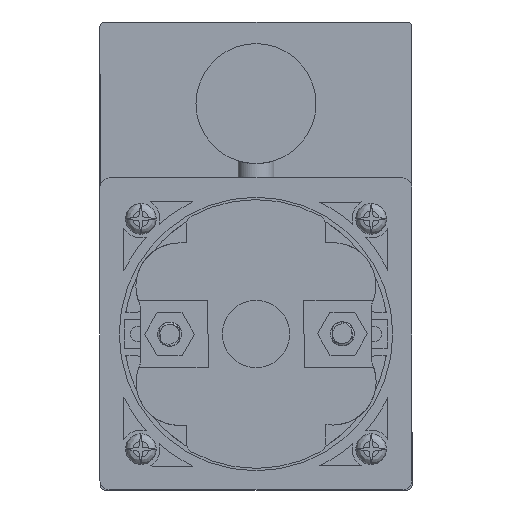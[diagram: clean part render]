
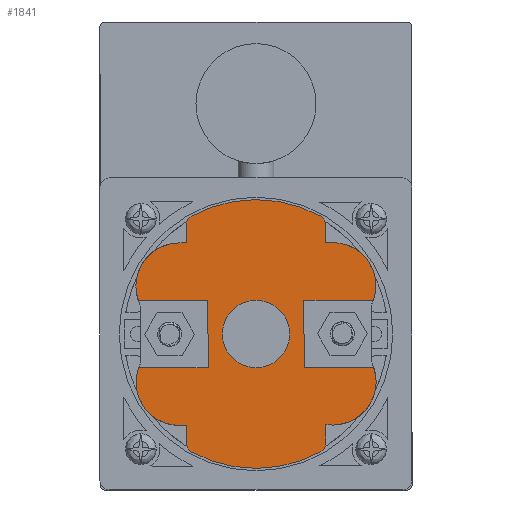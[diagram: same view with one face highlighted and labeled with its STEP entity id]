
A CAD part, front view. The second image highlights one B-rep face of the part: STEP entity #1841.
In plain terms, the highlighted planar face has unit normal (0, -1, 0).
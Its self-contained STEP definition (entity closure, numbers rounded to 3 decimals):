
#801=FACE_BOUND('',#3684,.T.);
#802=FACE_BOUND('',#3685,.T.);
#1841=ADVANCED_FACE('',(#801,#802),#2324,.F.);
#2324=PLANE('',#13966);
#3684=EDGE_LOOP('',(#7112,#7113,#7114,#7115,#7116,#7117,#7118,#7119,#7120,
#7121,#7122,#7123,#7124,#7125,#7126,#7127,#7128,#7129,#7130,#7131,#7132,
#7133,#7134,#7135,#7136));
#3685=EDGE_LOOP('',(#7137));
#4235=CIRCLE('',#13830,7.);
#4237=CIRCLE('',#13835,9.);
#4238=CIRCLE('',#13838,9.);
#4239=CIRCLE('',#13843,9.);
#4240=CIRCLE('',#13846,8.96);
#4242=CIRCLE('',#13850,9.);
#4294=CIRCLE('',#13960,2.);
#4295=CIRCLE('',#13961,28.);
#4296=CIRCLE('',#13962,2.);
#4297=CIRCLE('',#13963,2.);
#4298=CIRCLE('',#13964,28.);
#4299=CIRCLE('',#13965,2.);
#7112=ORIENTED_EDGE('',*,*,#10726,.F.);
#7113=ORIENTED_EDGE('',*,*,#10724,.T.);
#7114=ORIENTED_EDGE('',*,*,#10720,.T.);
#7115=ORIENTED_EDGE('',*,*,#10831,.T.);
#7116=ORIENTED_EDGE('',*,*,#10899,.T.);
#7117=ORIENTED_EDGE('',*,*,#10900,.T.);
#7118=ORIENTED_EDGE('',*,*,#10901,.T.);
#7119=ORIENTED_EDGE('',*,*,#10839,.T.);
#7120=ORIENTED_EDGE('',*,*,#10716,.T.);
#7121=ORIENTED_EDGE('',*,*,#10713,.T.);
#7122=ORIENTED_EDGE('',*,*,#10710,.T.);
#7123=ORIENTED_EDGE('',*,*,#10708,.F.);
#7124=ORIENTED_EDGE('',*,*,#10706,.F.);
#7125=ORIENTED_EDGE('',*,*,#10704,.F.);
#7126=ORIENTED_EDGE('',*,*,#10702,.T.);
#7127=ORIENTED_EDGE('',*,*,#10700,.T.);
#7128=ORIENTED_EDGE('',*,*,#10892,.T.);
#7129=ORIENTED_EDGE('',*,*,#10902,.T.);
#7130=ORIENTED_EDGE('',*,*,#10903,.T.);
#7131=ORIENTED_EDGE('',*,*,#10904,.T.);
#7132=ORIENTED_EDGE('',*,*,#10905,.T.);
#7133=ORIENTED_EDGE('',*,*,#10728,.T.);
#7134=ORIENTED_EDGE('',*,*,#10697,.T.);
#7135=ORIENTED_EDGE('',*,*,#10694,.F.);
#7136=ORIENTED_EDGE('',*,*,#10691,.F.);
#7137=ORIENTED_EDGE('',*,*,#10690,.F.);
#9050=VERTEX_POINT('',#59998);
#9051=VERTEX_POINT('',#60001);
#9052=VERTEX_POINT('',#60002);
#9053=VERTEX_POINT('',#60007);
#9055=VERTEX_POINT('',#60013);
#9056=VERTEX_POINT('',#60017);
#9057=VERTEX_POINT('',#60019);
#9058=VERTEX_POINT('',#60023);
#9059=VERTEX_POINT('',#60027);
#9060=VERTEX_POINT('',#60031);
#9061=VERTEX_POINT('',#60035);
#9062=VERTEX_POINT('',#60039);
#9064=VERTEX_POINT('',#60051);
#9066=VERTEX_POINT('',#60063);
#9069=VERTEX_POINT('',#60070);
#9070=VERTEX_POINT('',#60072);
#9072=VERTEX_POINT('',#60085);
#9074=VERTEX_POINT('',#60093);
#9145=VERTEX_POINT('',#60308);
#9149=VERTEX_POINT('',#60323);
#9189=VERTEX_POINT('',#60434);
#9193=VERTEX_POINT('',#60448);
#9194=VERTEX_POINT('',#60450);
#9195=VERTEX_POINT('',#60453);
#9196=VERTEX_POINT('',#60455);
#9197=VERTEX_POINT('',#60457);
#10690=EDGE_CURVE('',#9050,#9050,#4235,.T.);
#10691=EDGE_CURVE('',#9051,#9052,#11911,.T.);
#10694=EDGE_CURVE('',#9052,#9053,#11914,.T.);
#10697=EDGE_CURVE('',#9055,#9053,#4237,.T.);
#10700=EDGE_CURVE('',#9057,#9056,#11918,.T.);
#10702=EDGE_CURVE('',#9058,#9057,#4238,.T.);
#10704=EDGE_CURVE('',#9058,#9059,#11921,.T.);
#10706=EDGE_CURVE('',#9059,#9060,#11923,.T.);
#10708=EDGE_CURVE('',#9060,#9061,#11925,.T.);
#10710=EDGE_CURVE('',#9062,#9061,#4239,.T.);
#10713=EDGE_CURVE('',#9064,#9062,#11927,.T.);
#10716=EDGE_CURVE('',#9066,#9064,#4240,.T.);
#10720=EDGE_CURVE('',#9070,#9069,#11931,.T.);
#10724=EDGE_CURVE('',#9072,#9070,#4242,.T.);
#10726=EDGE_CURVE('',#9072,#9051,#11933,.T.);
#10728=EDGE_CURVE('',#9074,#9055,#11935,.T.);
#10831=EDGE_CURVE('',#9069,#9145,#12008,.T.);
#10839=EDGE_CURVE('',#9149,#9066,#12013,.T.);
#10892=EDGE_CURVE('',#9056,#9189,#12048,.T.);
#10899=EDGE_CURVE('',#9145,#9193,#4294,.T.);
#10900=EDGE_CURVE('',#9193,#9194,#4295,.T.);
#10901=EDGE_CURVE('',#9194,#9149,#4296,.T.);
#10902=EDGE_CURVE('',#9189,#9195,#4297,.T.);
#10903=EDGE_CURVE('',#9195,#9196,#4298,.T.);
#10904=EDGE_CURVE('',#9196,#9197,#4299,.T.);
#10905=EDGE_CURVE('',#9197,#9074,#12052,.T.);
#11911=LINE('',#60000,#12807);
#11914=LINE('',#60006,#12810);
#11918=LINE('',#60018,#12814);
#11921=LINE('',#60026,#12817);
#11923=LINE('',#60030,#12819);
#11925=LINE('',#60034,#12821);
#11927=LINE('',#60050,#12823);
#11931=LINE('',#60071,#12827);
#11933=LINE('',#60088,#12829);
#11935=LINE('',#60092,#12831);
#12008=LINE('',#60310,#12904);
#12013=LINE('',#60322,#12909);
#12048=LINE('',#60436,#12944);
#12052=LINE('',#60458,#12948);
#12807=VECTOR('',#16138,1.);
#12810=VECTOR('',#16143,1.);
#12814=VECTOR('',#16155,1.);
#12817=VECTOR('',#16164,1.);
#12819=VECTOR('',#16168,1.);
#12821=VECTOR('',#16172,1.);
#12823=VECTOR('',#16180,1.);
#12827=VECTOR('',#16190,1.);
#12829=VECTOR('',#16200,1.);
#12831=VECTOR('',#16204,1.);
#12904=VECTOR('',#16405,1.);
#12909=VECTOR('',#16420,1.);
#12944=VECTOR('',#16521,1.);
#12948=VECTOR('',#16547,1.);
#13830=AXIS2_PLACEMENT_3D('',#59997,#16134,#16135);
#13835=AXIS2_PLACEMENT_3D('',#60012,#16149,#16150);
#13838=AXIS2_PLACEMENT_3D('',#60022,#16159,#16160);
#13843=AXIS2_PLACEMENT_3D('',#60038,#16176,#16177);
#13846=AXIS2_PLACEMENT_3D('',#60062,#16183,#16184);
#13850=AXIS2_PLACEMENT_3D('',#60084,#16195,#16196);
#13960=AXIS2_PLACEMENT_3D('',#60447,#16535,#16536);
#13961=AXIS2_PLACEMENT_3D('',#60449,#16537,#16538);
#13962=AXIS2_PLACEMENT_3D('',#60451,#16539,#16540);
#13963=AXIS2_PLACEMENT_3D('',#60452,#16541,#16542);
#13964=AXIS2_PLACEMENT_3D('',#60454,#16543,#16544);
#13965=AXIS2_PLACEMENT_3D('',#60456,#16545,#16546);
#13966=AXIS2_PLACEMENT_3D('',#60459,#16548,#16549);
#16134=DIRECTION('',(0.,-1.,0.));
#16135=DIRECTION('',(-1.,0.,-0.003));
#16138=DIRECTION('',(-0.003,0.,1.));
#16143=DIRECTION('',(-1.,0.,-0.003));
#16149=DIRECTION('',(0.,-1.,0.));
#16150=DIRECTION('',(-1.,0.,-0.003));
#16155=DIRECTION('',(-1.,0.,-0.003));
#16159=DIRECTION('',(0.,-1.,0.));
#16160=DIRECTION('',(1.,0.,0.003));
#16164=DIRECTION('',(-1.,0.,-0.003));
#16168=DIRECTION('',(0.003,0.,-1.));
#16172=DIRECTION('',(1.,0.,0.003));
#16176=DIRECTION('',(0.,-1.,0.));
#16177=DIRECTION('',(0.,0.,-1.));
#16180=DIRECTION('',(1.,0.,0.003));
#16183=DIRECTION('',(0.,-1.,0.));
#16184=DIRECTION('',(0.,0.,-1.));
#16190=DIRECTION('',(1.,0.,0.003));
#16195=DIRECTION('',(0.,-1.,0.));
#16196=DIRECTION('',(-0.89,0.,0.456));
#16200=DIRECTION('',(1.,0.,0.003));
#16204=DIRECTION('',(-1.,0.,-0.003));
#16405=DIRECTION('',(0.003,0.,-1.));
#16420=DIRECTION('',(-0.003,0.,1.));
#16521=DIRECTION('',(-0.003,0.,1.));
#16535=DIRECTION('',(0.,-1.,0.));
#16536=DIRECTION('',(1.,0.,0.003));
#16537=DIRECTION('',(0.,-1.,0.));
#16538=DIRECTION('',(1.,0.,0.003));
#16539=DIRECTION('',(0.,-1.,0.));
#16540=DIRECTION('',(1.,0.,0.003));
#16541=DIRECTION('',(0.,-1.,0.));
#16542=DIRECTION('',(1.,0.,0.003));
#16543=DIRECTION('',(0.,-1.,0.));
#16544=DIRECTION('',(1.,0.,0.003));
#16545=DIRECTION('',(0.,-1.,0.));
#16546=DIRECTION('',(1.,0.,0.003));
#16547=DIRECTION('',(0.003,0.,-1.));
#16548=DIRECTION('',(0.,1.,0.));
#16549=DIRECTION('',(0.,0.,1.));
#59997=CARTESIAN_POINT('',(0.,-40.6,0.));
#59998=CARTESIAN_POINT('',(-7.,-40.6,-0.018));
#60000=CARTESIAN_POINT('',(-9.982,-40.6,-7.026));
#60001=CARTESIAN_POINT('',(-9.982,-40.6,-7.026));
#60002=CARTESIAN_POINT('',(-10.018,-40.6,6.974));
#60006=CARTESIAN_POINT('',(-10.018,-40.6,6.974));
#60007=CARTESIAN_POINT('',(-24.503,-40.6,6.937));
#60012=CARTESIAN_POINT('',(-16.026,-40.6,9.959));
#60013=CARTESIAN_POINT('',(-16.049,-40.6,18.959));
#60017=CARTESIAN_POINT('',(14.451,-40.6,19.037));
#60018=CARTESIAN_POINT('',(15.951,-40.6,19.041));
#60019=CARTESIAN_POINT('',(15.951,-40.6,19.041));
#60022=CARTESIAN_POINT('',(15.974,-40.6,10.041));
#60023=CARTESIAN_POINT('',(24.467,-40.6,7.063));
#60026=CARTESIAN_POINT('',(34.164,-40.6,7.088));
#60027=CARTESIAN_POINT('',(9.982,-40.6,7.026));
#60030=CARTESIAN_POINT('',(9.982,-40.6,7.026));
#60031=CARTESIAN_POINT('',(10.018,-40.6,-6.974));
#60034=CARTESIAN_POINT('',(10.018,-40.6,-6.974));
#60035=CARTESIAN_POINT('',(24.503,-40.6,-6.937));
#60038=CARTESIAN_POINT('',(16.026,-40.6,-9.959));
#60039=CARTESIAN_POINT('',(16.119,-40.6,-18.958));
#60050=CARTESIAN_POINT('',(23.752,-40.6,-18.938));
#60051=CARTESIAN_POINT('',(15.978,-40.6,-18.959));
#60062=CARTESIAN_POINT('',(16.02,-40.6,-9.999));
#60063=CARTESIAN_POINT('',(14.548,-40.6,-18.837));
#60070=CARTESIAN_POINT('',(-14.451,-40.6,-19.037));
#60071=CARTESIAN_POINT('',(23.753,-40.6,-18.934));
#60072=CARTESIAN_POINT('',(-15.951,-40.6,-19.041));
#60084=CARTESIAN_POINT('',(-15.974,-40.6,-10.041));
#60085=CARTESIAN_POINT('',(-24.468,-40.6,-7.063));
#60088=CARTESIAN_POINT('',(-34.164,-40.6,-7.088));
#60092=CARTESIAN_POINT('',(-14.549,-40.6,18.963));
#60093=CARTESIAN_POINT('',(-14.549,-40.6,18.963));
#60308=CARTESIAN_POINT('',(-14.441,-40.6,-22.835));
#60310=CARTESIAN_POINT('',(-14.451,-40.6,-19.037));
#60322=CARTESIAN_POINT('',(14.558,-40.6,-22.761));
#60323=CARTESIAN_POINT('',(14.558,-40.6,-22.761));
#60434=CARTESIAN_POINT('',(14.441,-40.6,22.835));
#60436=CARTESIAN_POINT('',(14.451,-40.6,19.037));
#60447=CARTESIAN_POINT('',(-12.441,-40.6,-22.83));
#60448=CARTESIAN_POINT('',(-13.398,-40.6,-24.586));
#60449=CARTESIAN_POINT('',(0.,-40.6,0.));
#60450=CARTESIAN_POINT('',(13.525,-40.6,-24.517));
#60451=CARTESIAN_POINT('',(12.558,-40.6,-22.766));
#60452=CARTESIAN_POINT('',(12.441,-40.6,22.83));
#60453=CARTESIAN_POINT('',(13.398,-40.6,24.586));
#60454=CARTESIAN_POINT('',(0.,-40.6,0.));
#60455=CARTESIAN_POINT('',(-13.525,-40.6,24.517));
#60456=CARTESIAN_POINT('',(-12.558,-40.6,22.766));
#60457=CARTESIAN_POINT('',(-14.558,-40.6,22.761));
#60458=CARTESIAN_POINT('',(-14.558,-40.6,22.761));
#60459=CARTESIAN_POINT('',(23.741,-40.6,-14.593));
